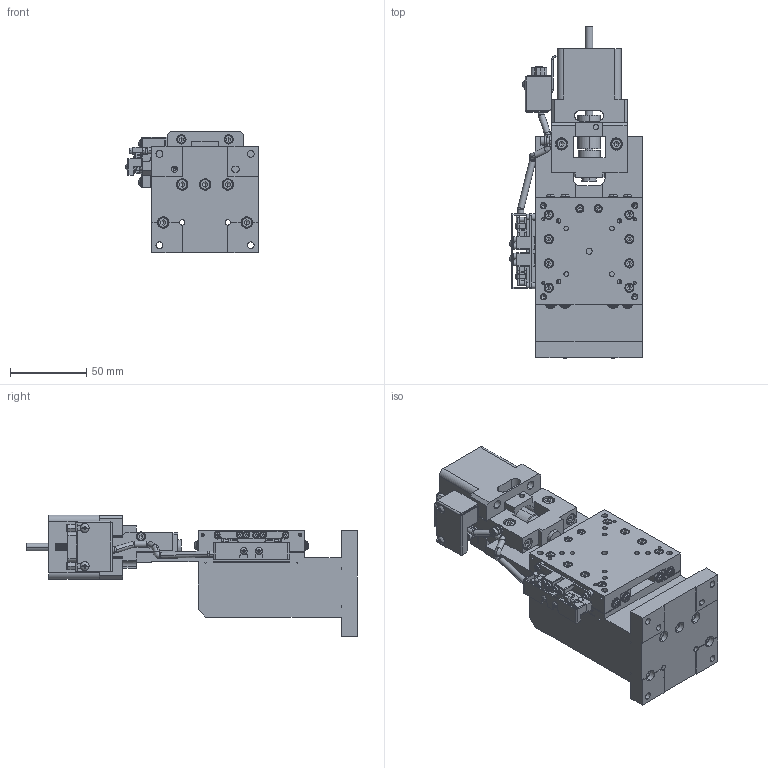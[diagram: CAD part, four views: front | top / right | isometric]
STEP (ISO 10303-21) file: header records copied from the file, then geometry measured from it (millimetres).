
FILE_DESCRIPTION( (''), '2;1');
FILE_NAME ('MVZA07A-X103.stp','2021-05-19T13:06:36',(''),(''),'spGate 15.6.6','','');
FILE_SCHEMA (('AUTOMOTIVE_DESIGN'));
Length unit declared in the file: millimetre
Products named in the file (3): Assembly; MVZA07A-X103-prt0; MVZA07A-X103-prt1
Assembly tree (2 placements, depth 2):
  Assembly
    MVZA07A-X103-prt0
    MVZA07A-X103-prt1
Bounding box: 87.18 x 218 x 80 mm (x, y, z)
Volume: 413339.3 mm3; surface area: 117465.7 mm2
Topology: 2 solids, 2 shells, 3410 faces, 8461 edges, 5101 vertices
Faces by surface type: plane 1881, cylinder 918, bspline 564, sphere 47
Entity records: 171936 total; most frequent: CARTESIAN_POINT 28089, ORIENTED_EDGE 16564, DIRECTION 15204, COLOUR_RGB 11694, PRESENTATION_STYLE_ASSIGNMENT 11694, STYLED_ITEM 11694, EDGE_CURVE 8282, DRAUGHTING_PRE_DEFINED_CURVE_FONT 8282
